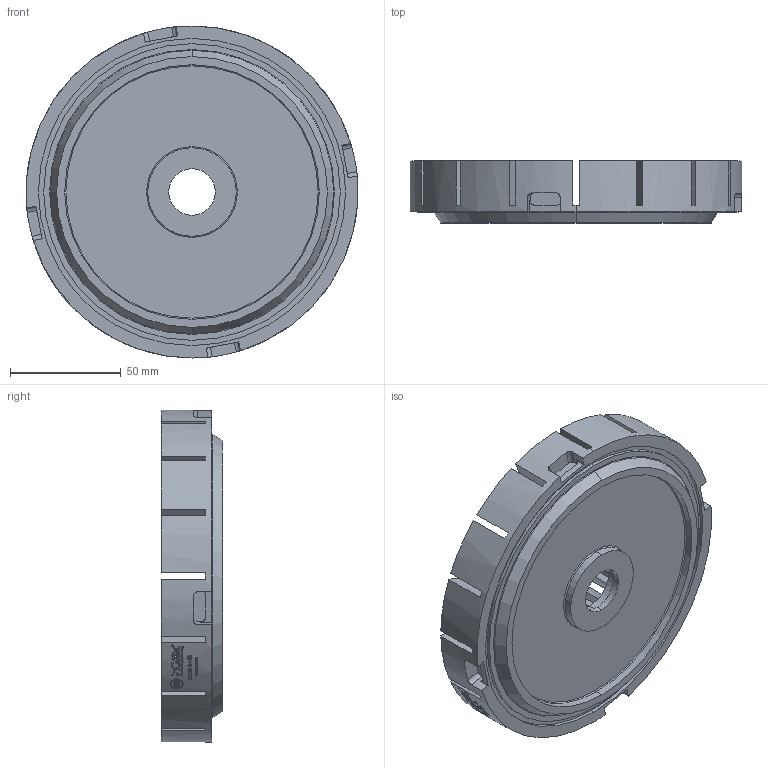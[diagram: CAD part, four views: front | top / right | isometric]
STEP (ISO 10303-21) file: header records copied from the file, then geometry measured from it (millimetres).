
FILE_DESCRIPTION (( 'STEP AP203' ), '1' );
FILE_NAME ('CR150 SH-23.STEP', '2016-06-15T08:42:25', ( '' ), ( '' ), 'SwSTEP 2.0', 'SolidWorks 2016', '' );
FILE_SCHEMA (( 'CONFIG_CONTROL_DESIGN' ));
Length unit declared in the file: millimetre
Products named in the file (1): CR150 SH-23
Bounding box: 150 x 28 x 150 mm (x, y, z)
Volume: 352571 mm3; surface area: 90166.7 mm2
Topology: 1 solids, 1 shells, 2044 faces, 5830 edges, 3885 vertices
Faces by surface type: plane 1643, cylinder 391, torus 8, cone 2
Entity records: 67371 total; most frequent: CARTESIAN_POINT 17597, ORIENTED_EDGE 11660, DIRECTION 8942, EDGE_CURVE 5830, VERTEX_POINT 3885, LINE 3672, VECTOR 3672, AXIS2_PLACEMENT_3D 2635
